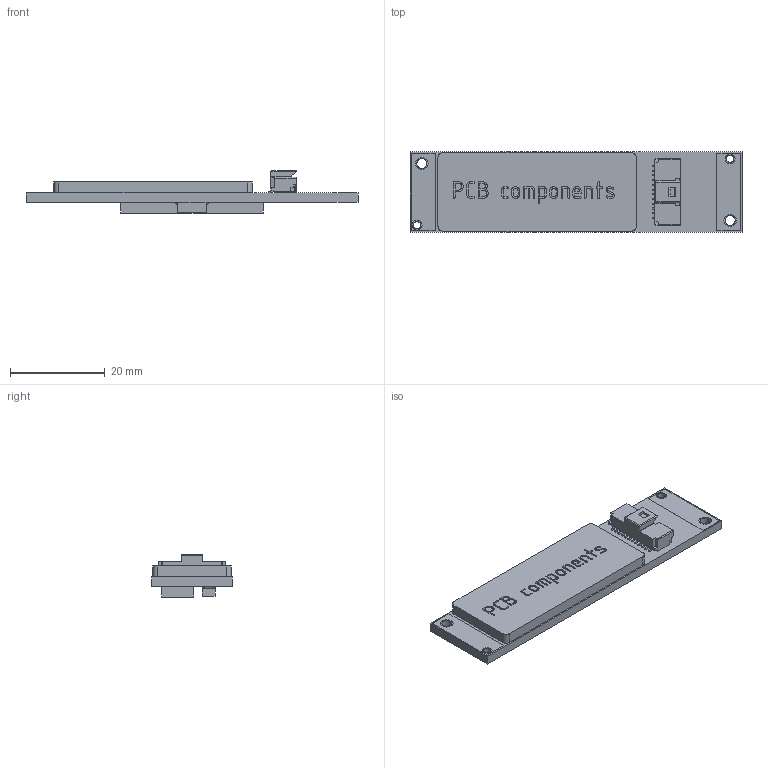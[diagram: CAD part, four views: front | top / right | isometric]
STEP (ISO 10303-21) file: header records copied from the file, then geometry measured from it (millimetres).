
FILE_DESCRIPTION (( 'STEP AP214' ), '1' );
FILE_NAME ('PCB_A.STEP', '2024-02-01T06:30:04', ( '' ), ( '' ), 'SwSTEP 2.0', 'SolidWorks 2022', '' );
FILE_SCHEMA (( 'AUTOMOTIVE_DESIGN' ));
Length unit declared in the file: millimetre
Products named in the file (1): PCB_A
Bounding box: 70 x 17 x 9.02 mm (x, y, z)
Volume: 4574.7 mm3; surface area: 3782.8 mm2
Topology: 1 solids, 1 shells, 763 faces, 2180 edges, 1449 vertices
Faces by surface type: plane 559, bspline 117, cylinder 79, cone 4, sphere 4
Entity records: 33243 total; most frequent: CARTESIAN_POINT 15876, ORIENTED_EDGE 4356, EDGE_CURVE 2178, B_SPLINE_CURVE_WITH_KNOTS 1986, DIRECTION 1494, VERTEX_POINT 1448, EDGE_LOOP 830, FACE_OUTER_BOUND 763
